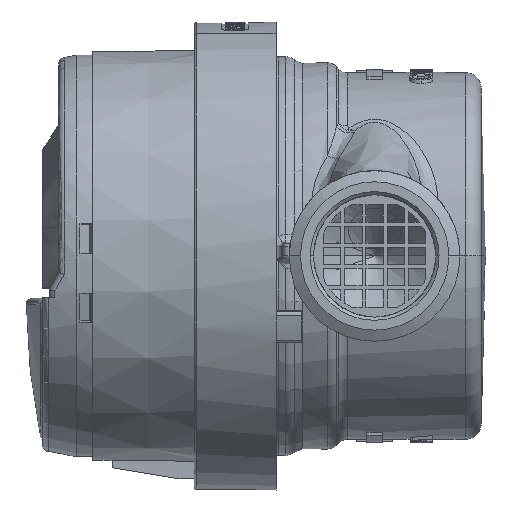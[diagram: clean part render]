
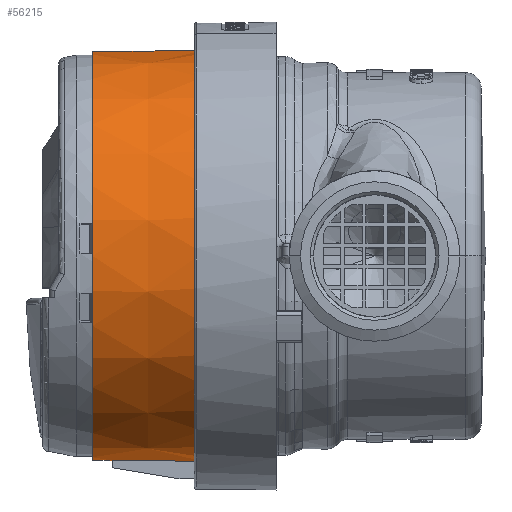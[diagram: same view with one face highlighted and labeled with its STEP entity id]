
A CAD part, left-side view. The second image highlights one B-rep face of the part: STEP entity #56215.
In plain terms, the highlighted conical face has half-angle 0.504 degrees and reference radius 31.9 mm.
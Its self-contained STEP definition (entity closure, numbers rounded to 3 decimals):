
#558 = VERTEX_POINT ( 'NONE', #27895 ) ;
#2437 = CARTESIAN_POINT ( 'NONE',  ( 0., 43.224, 0. ) ) ;
#3883 = AXIS2_PLACEMENT_3D ( 'NONE', #2437, #56463, #34158 ) ;
#4457 = CARTESIAN_POINT ( 'NONE',  ( -1., 50.703, -31.819 ) ) ;
#5872 = CARTESIAN_POINT ( 'NONE',  ( 0., 43.224, 0. ) ) ;
#7142 = ORIENTED_EDGE ( 'NONE', *, *, #40645, .F. ) ;
#9015 = VERTEX_POINT ( 'NONE', #14155 ) ;
#10699 = CARTESIAN_POINT ( 'NONE',  ( 0., 43.224, 31.9 ) ) ;
#10965 = DIRECTION ( 'NONE',  ( 0., -1., 0.009 ) ) ;
#11261 = CARTESIAN_POINT ( 'NONE',  ( 0., 43.224, 31.9 ) ) ;
#11698 = AXIS2_PLACEMENT_3D ( 'NONE', #22348, #40193, #52214 ) ;
#13624 = EDGE_LOOP ( 'NONE', ( #43364, #36310, #27364, #46453, #40608, #7142 ) ) ;
#14155 = CARTESIAN_POINT ( 'NONE',  ( -1., 57.25, -31.761 ) ) ;
#16181 = DIRECTION ( 'NONE',  ( 0., -1., -0.009 ) ) ;
#19017 = VERTEX_POINT ( 'NONE', #10699 ) ;
#22348 = CARTESIAN_POINT ( 'NONE',  ( 0., 57.25, 0. ) ) ;
#22586 = EDGE_CURVE ( 'NONE', #19017, #45058, #38540, .T. ) ;
#24107 = DIRECTION ( 'NONE',  ( 0., -1., 0. ) ) ;
#25050 = CARTESIAN_POINT ( 'NONE',  ( 0., 43.224, -31.9 ) ) ;
#25907 = CARTESIAN_POINT ( 'NONE',  ( -1., 57.25, -31.761 ) ) ;
#26265 = CARTESIAN_POINT ( 'NONE',  ( -1., 43.224, -31.884 ) ) ;
#26527 = B_SPLINE_CURVE_WITH_KNOTS ( 'NONE', 3,
 ( #25907, #34967, #31201, #4457, #44962, #30308, #43775, #49016, #57283, #53140 ),
 .UNSPECIFIED., .F., .F.,
 ( 4, 3, 3, 4 ),
 ( -0.007, 0., 0.007, 0.007 ),
 .UNSPECIFIED. ) ;
#27157 = AXIS2_PLACEMENT_3D ( 'NONE', #5872, #24107, #41947 ) ;
#27364 = ORIENTED_EDGE ( 'NONE', *, *, #54098, .F. ) ;
#27816 = VECTOR ( 'NONE', #10965, 1000. ) ;
#27895 = CARTESIAN_POINT ( 'NONE',  ( 0., 60.3, -31.75 ) ) ;
#30308 = CARTESIAN_POINT ( 'NONE',  ( -1., 46.037, -31.86 ) ) ;
#31201 = CARTESIAN_POINT ( 'NONE',  ( -1., 52.885, -31.799 ) ) ;
#33282 = CIRCLE ( 'NONE', #11698, 31.777 ) ;
#33965 = EDGE_CURVE ( 'NONE', #558, #43925, #34411, .T. ) ;
#34109 = EDGE_CURVE ( 'NONE', #9015, #45058, #26527, .T. ) ;
#34158 = DIRECTION ( 'NONE',  ( 0., 0., 1. ) ) ;
#34175 = AXIS2_PLACEMENT_3D ( 'NONE', #55503, #50770, #56069 ) ;
#34411 = LINE ( 'NONE', #25050, #39153 ) ;
#34967 = CARTESIAN_POINT ( 'NONE',  ( -1., 55.068, -31.78 ) ) ;
#36310 = ORIENTED_EDGE ( 'NONE', *, *, #33965, .T. ) ;
#38540 = CIRCLE ( 'NONE', #3883, 31.9 ) ;
#39003 = VERTEX_POINT ( 'NONE', #46744 ) ;
#39153 = VECTOR ( 'NONE', #16181, 1000. ) ;
#40193 = DIRECTION ( 'NONE',  ( 0., -1., 0. ) ) ;
#40608 = ORIENTED_EDGE ( 'NONE', *, *, #22586, .F. ) ;
#40645 = EDGE_CURVE ( 'NONE', #39003, #19017, #54227, .T. ) ;
#41947 = DIRECTION ( 'NONE',  ( 0., 0., 1. ) ) ;
#43364 = ORIENTED_EDGE ( 'NONE', *, *, #53930, .T. ) ;
#43775 = CARTESIAN_POINT ( 'NONE',  ( -1., 43.704, -31.88 ) ) ;
#43925 = VERTEX_POINT ( 'NONE', #52094 ) ;
#44916 = CONICAL_SURFACE ( 'NONE', #27157, 31.9, 0.009 ) ;
#44962 = CARTESIAN_POINT ( 'NONE',  ( -1., 48.37, -31.839 ) ) ;
#45058 = VERTEX_POINT ( 'NONE', #26265 ) ;
#46453 = ORIENTED_EDGE ( 'NONE', *, *, #34109, .T. ) ;
#46744 = CARTESIAN_POINT ( 'NONE',  ( 0., 60.3, 31.75 ) ) ;
#49016 = CARTESIAN_POINT ( 'NONE',  ( -1., 43.544, -31.882 ) ) ;
#49104 = CIRCLE ( 'NONE', #34175, 31.75 ) ;
#50770 = DIRECTION ( 'NONE',  ( 0., -1., 0. ) ) ;
#51302 = FACE_OUTER_BOUND ( 'NONE', #13624, .T. ) ;
#52094 = CARTESIAN_POINT ( 'NONE',  ( 0., 57.25, -31.777 ) ) ;
#52214 = DIRECTION ( 'NONE',  ( 0., 0., -1. ) ) ;
#53140 = CARTESIAN_POINT ( 'NONE',  ( -1., 43.224, -31.884 ) ) ;
#53930 = EDGE_CURVE ( 'NONE', #39003, #558, #49104, .T. ) ;
#54098 = EDGE_CURVE ( 'NONE', #9015, #43925, #33282, .T. ) ;
#54227 = LINE ( 'NONE', #11261, #27816 ) ;
#55503 = CARTESIAN_POINT ( 'NONE',  ( 0., 60.3, 0. ) ) ;
#56069 = DIRECTION ( 'NONE',  ( 0., 0., 1. ) ) ;
#56215 = ADVANCED_FACE ( 'NONE', ( #51302 ), #44916, .T. ) ;
#56463 = DIRECTION ( 'NONE',  ( 0., -1., 0. ) ) ;
#57283 = CARTESIAN_POINT ( 'NONE',  ( -1., 43.384, -31.883 ) ) ;
